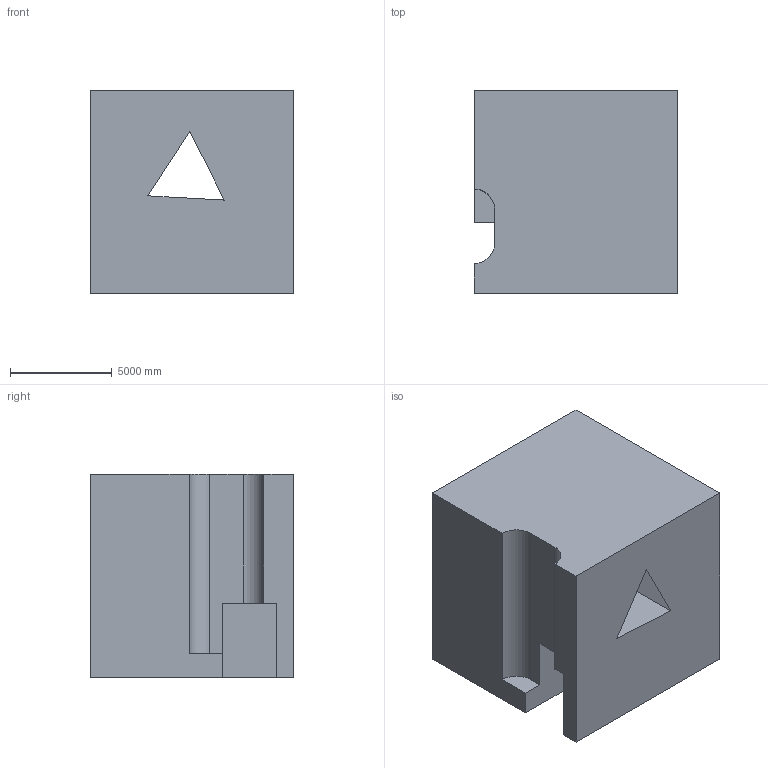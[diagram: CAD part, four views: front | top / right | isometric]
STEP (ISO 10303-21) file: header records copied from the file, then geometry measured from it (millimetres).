
FILE_DESCRIPTION (( 'STEP AP203' ), '1' );
FILE_NAME ('1314.STEP', '2022-08-18T13:42:58', ( 'user' ), ( '' ), 'SwSTEP 2.0', 'SolidWorks 2021', '' );
FILE_SCHEMA (( 'CONFIG_CONTROL_DESIGN' ));
Length unit declared in the file: centimetre
Products named in the file (1): 1314
Bounding box: 10000 x 10000 x 10000 mm (x, y, z)
Volume: 854266105203.5 mm3; surface area: 774112910.8 mm2
Topology: 1 solids, 1 shells, 22 faces, 57 edges, 38 vertices
Faces by surface type: plane 20, cylinder 2
Entity records: 746 total; most frequent: CARTESIAN_POINT 118, ORIENTED_EDGE 114, DIRECTION 107, EDGE_CURVE 57, VECTOR 53, LINE 53, VERTEX_POINT 38, AXIS2_PLACEMENT_3D 27
